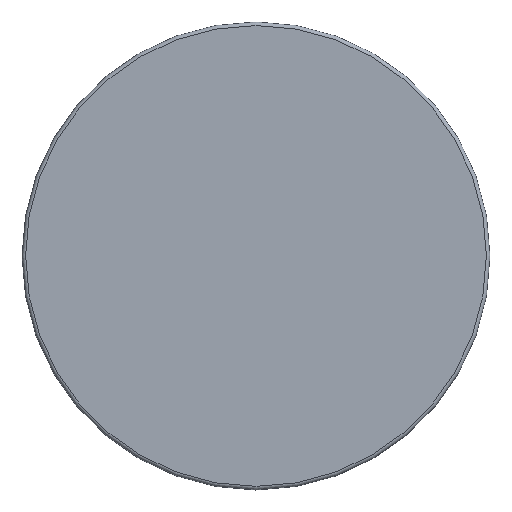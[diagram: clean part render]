
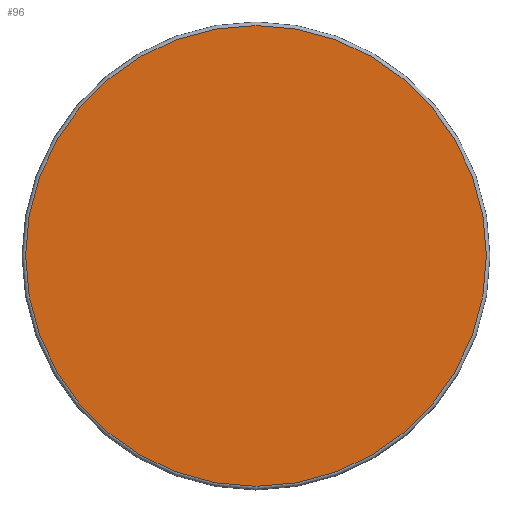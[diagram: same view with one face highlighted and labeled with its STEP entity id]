
A CAD part, top view. The second image highlights one B-rep face of the part: STEP entity #96.
In plain terms, the highlighted planar face has unit normal (0, 0, 1).
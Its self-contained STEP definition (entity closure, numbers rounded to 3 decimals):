
#15 = DIRECTION ( 'NONE',  ( 0., 0., 1. ) ) ;
#36 = CIRCLE ( 'NONE', #109, 19.2 ) ;
#41 = PLANE ( 'NONE',  #47 ) ;
#43 = CARTESIAN_POINT ( 'NONE',  ( 19.2, 0., 3.7 ) ) ;
#47 = AXIS2_PLACEMENT_3D ( 'NONE', #167, #129, #53 ) ;
#50 = EDGE_CURVE ( 'NONE', #170, #170, #36, .T. ) ;
#53 = DIRECTION ( 'NONE',  ( 1., 0., 0. ) ) ;
#69 = FACE_OUTER_BOUND ( 'NONE', #161, .T. ) ;
#96 = ADVANCED_FACE ( 'NONE', ( #69 ), #41, .T. ) ;
#109 = AXIS2_PLACEMENT_3D ( 'NONE', #111, #15, #166 ) ;
#110 = ORIENTED_EDGE ( 'NONE', *, *, #50, .T. ) ;
#111 = CARTESIAN_POINT ( 'NONE',  ( 0., 0., 3.7 ) ) ;
#129 = DIRECTION ( 'NONE',  ( 0., 0., 1. ) ) ;
#161 = EDGE_LOOP ( 'NONE', ( #110 ) ) ;
#166 = DIRECTION ( 'NONE',  ( 1., 0., 0. ) ) ;
#167 = CARTESIAN_POINT ( 'NONE',  ( 0., 0., 3.7 ) ) ;
#170 = VERTEX_POINT ( 'NONE', #43 ) ;
